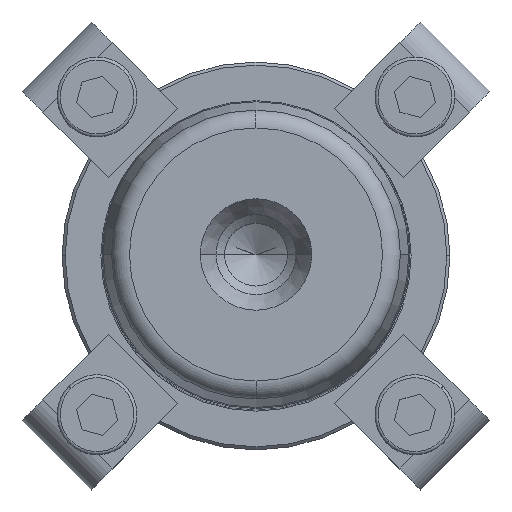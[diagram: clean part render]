
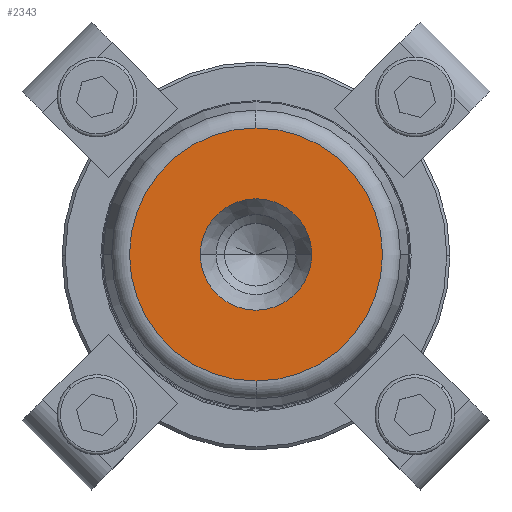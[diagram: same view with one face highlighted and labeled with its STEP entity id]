
A CAD part, top view. The second image highlights one B-rep face of the part: STEP entity #2343.
In plain terms, the highlighted planar face has unit normal (0, 0, 1).
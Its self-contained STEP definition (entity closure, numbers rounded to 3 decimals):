
#431=CARTESIAN_POINT('',(9.05,0.,140.0));
#432=VERTEX_POINT('',#431);
#439=CARTESIAN_POINT('',(-9.05,0.,140.0));
#440=VERTEX_POINT('',#439);
#441=CARTESIAN_POINT('',(0.0,0.,140.0));
#442=DIRECTION('',(0.0,0.0,1.0));
#443=DIRECTION('',(1.0,0.0,0.0));
#444=AXIS2_PLACEMENT_3D('',#441,#442,#443);
#445=CIRCLE('',#444,9.05);
#446=EDGE_CURVE('',#432,#440,#445,.T.);
#463=CARTESIAN_POINT('',(0.0,-20.554,140.0));
#464=VERTEX_POINT('',#463);
#474=CARTESIAN_POINT('',(0.,20.554,140.0));
#475=VERTEX_POINT('',#474);
#476=CARTESIAN_POINT('',(0.0,0.,140.0));
#477=DIRECTION('',(0.0,0.0,1.0));
#478=DIRECTION('',(1.0,0.0,0.0));
#479=AXIS2_PLACEMENT_3D('',#476,#477,#478);
#480=CIRCLE('',#479,20.554);
#481=EDGE_CURVE('',#475,#464,#480,.T.);
#2304=CARTESIAN_POINT('',(20.554,0.,140.0));
#2305=VERTEX_POINT('',#2304);
#2306=CARTESIAN_POINT('',(0.0,0.,140.0));
#2307=DIRECTION('',(0.0,0.0,1.0));
#2308=DIRECTION('',(1.0,0.0,0.0));
#2309=AXIS2_PLACEMENT_3D('',#2306,#2307,#2308);
#2310=CIRCLE('',#2309,20.554);
#2311=EDGE_CURVE('',#2305,#475,#2310,.T.);
#2313=CARTESIAN_POINT('',(0.0,0.,140.0));
#2314=DIRECTION('',(0.0,0.0,1.0));
#2315=DIRECTION('',(1.0,0.0,0.0));
#2316=AXIS2_PLACEMENT_3D('',#2313,#2314,#2315);
#2317=CIRCLE('',#2316,20.554);
#2318=EDGE_CURVE('',#464,#2305,#2317,.T.);
#2323=CARTESIAN_POINT('',(14.802,0.,140.0));
#2324=DIRECTION('',(0.0,0.0,1.0));
#2325=DIRECTION('',(0.0,-1.0,0.0));
#2326=AXIS2_PLACEMENT_3D('',#2323,#2324,#2325);
#2327=PLANE('',#2326);
#2328=ORIENTED_EDGE('',*,*,#2311,.T.);
#2329=ORIENTED_EDGE('',*,*,#481,.T.);
#2330=ORIENTED_EDGE('',*,*,#2318,.T.);
#2331=EDGE_LOOP('',(#2328,#2329,#2330));
#2332=FACE_OUTER_BOUND('',#2331,.T.);
#2333=ORIENTED_EDGE('',*,*,#446,.F.);
#2334=CARTESIAN_POINT('',(0.0,0.,140.0));
#2335=DIRECTION('',(0.0,0.0,1.0));
#2336=DIRECTION('',(1.0,0.0,0.0));
#2337=AXIS2_PLACEMENT_3D('',#2334,#2335,#2336);
#2338=CIRCLE('',#2337,9.05);
#2339=EDGE_CURVE('',#440,#432,#2338,.T.);
#2340=ORIENTED_EDGE('',*,*,#2339,.F.);
#2341=EDGE_LOOP('',(#2333,#2340));
#2342=FACE_BOUND('',#2341,.T.);
#2343=ADVANCED_FACE('',(#2332,#2342),#2327,.T.);
